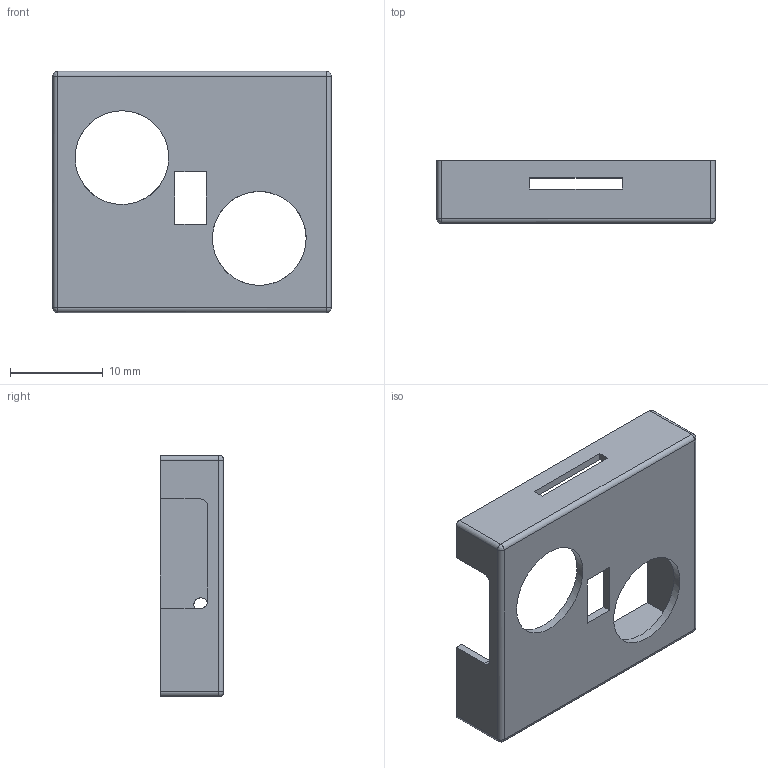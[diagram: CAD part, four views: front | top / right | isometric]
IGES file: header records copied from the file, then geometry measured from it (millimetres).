
Global section: file name: Base case_v26ago; native system: Autodesk Inventor 2018; preprocessor: unknown; author: Alessia Buffagni; date: 20190826.192923; units: millimetre
Bounding box: 30 x 6.8 x 26 mm (x, y, z)
Volume: 988 mm3; surface area: 2504.5 mm2
Topology: 1 solids, 1 shells, 55 faces, 150 edges, 99 vertices
Faces by surface type: bspline 55
